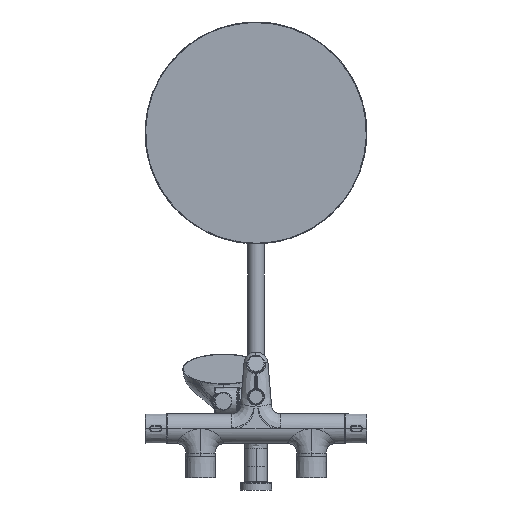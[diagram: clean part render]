
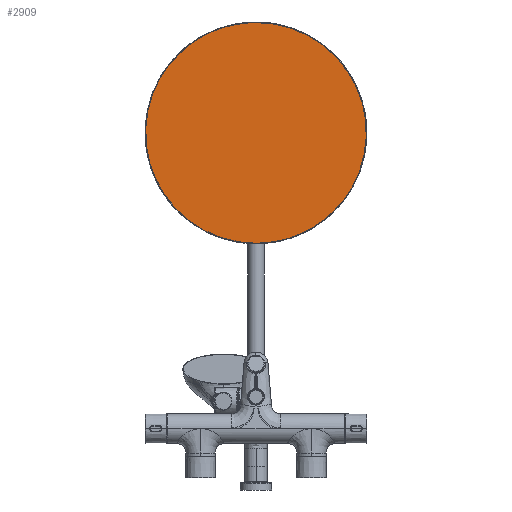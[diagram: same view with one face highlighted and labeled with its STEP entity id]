
A CAD part, front view. The second image highlights one B-rep face of the part: STEP entity #2909.
In plain terms, the highlighted planar face has unit normal (0, -1, 0).
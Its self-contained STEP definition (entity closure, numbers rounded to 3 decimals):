
#1078 = EDGE_CURVE ( 'NONE', #3123, #14101, #47282, .T. ) ;
#1089 = ORIENTED_EDGE ( 'NONE', *, *, #2007, .F. ) ;
#1637 = ORIENTED_EDGE ( 'NONE', *, *, #1078, .F. ) ;
#2007 = EDGE_CURVE ( 'NONE', #14101, #14953, #34167, .T. ) ;
#2518 = CARTESIAN_POINT ( 'NONE',  ( -0.655, 1132.897, 207.803 ) ) ;
#2909 = ADVANCED_FACE ( 'NONE', ( #40716 ), #26855, .T. ) ;
#3001 = CARTESIAN_POINT ( 'NONE',  ( 0., 1132.897, 357. ) ) ;
#3123 = VERTEX_POINT ( 'NONE', #31043 ) ;
#4353 = EDGE_LOOP ( 'NONE', ( #1637, #45935, #35062, #1089 ) ) ;
#6276 = CARTESIAN_POINT ( 'NONE',  ( 0., 1132.897, 506.199 ) ) ;
#6445 = CARTESIAN_POINT ( 'NONE',  ( 0.437, 1132.897, 506.198 ) ) ;
#7923 = CARTESIAN_POINT ( 'NONE',  ( -297.745, 1132.897, 209.107 ) ) ;
#8818 = CARTESIAN_POINT ( 'NONE',  ( 0.655, 1132.897, 506.197 ) ) ;
#10886 = VERTEX_POINT ( 'NONE', #13647 ) ;
#13647 = CARTESIAN_POINT ( 'NONE',  ( -0.655, 1132.897, 207.803 ) ) ;
#14101 = VERTEX_POINT ( 'NONE', #36741 ) ;
#14467 = CARTESIAN_POINT ( 'NONE',  ( 0.655, 1132.897, 506.197 ) ) ;
#14953 = VERTEX_POINT ( 'NONE', #33057 ) ;
#19955 = CARTESIAN_POINT ( 'NONE',  ( 0., 1132.897, 506.199 ) ) ;
#20306 = CARTESIAN_POINT ( 'NONE',  ( 297.093, 1132.897, 207.801 ) ) ;
#23093 = EDGE_CURVE ( 'NONE', #14953, #10886, #31786, .T. ) ;
#23936 = CARTESIAN_POINT ( 'NONE',  ( -297.093, 1132.897, 506.199 ) ) ;
#23980 =( BOUNDED_CURVE ( )  B_SPLINE_CURVE ( 3, ( #28806, #7923, #23936, #19955 ),
 .UNSPECIFIED., .F., .F. ) 
 B_SPLINE_CURVE_WITH_KNOTS ( ( 4, 4 ),
 ( 0.001, 1. ),
 .UNSPECIFIED. ) 
 CURVE ( )  GEOMETRIC_REPRESENTATION_ITEM ( )  RATIONAL_B_SPLINE_CURVE ( ( 1., 0.335, 0.335, 1. ) ) 
 REPRESENTATION_ITEM ( '' )  );
#26855 = PLANE ( 'NONE',  #35266 ) ;
#27205 = DIRECTION ( 'NONE',  ( 0., -1., 0. ) ) ;
#28806 = CARTESIAN_POINT ( 'NONE',  ( -0.655, 1132.897, 207.803 ) ) ;
#30869 = DIRECTION ( 'NONE',  ( 0., 0., -1. ) ) ;
#31043 = CARTESIAN_POINT ( 'NONE',  ( 0., 1132.897, 506.199 ) ) ;
#31786 =( BOUNDED_CURVE ( )  B_SPLINE_CURVE ( 3, ( #41724, #34048, #46083, #2518 ),
 .UNSPECIFIED., .F., .T. ) 
 B_SPLINE_CURVE_WITH_KNOTS ( ( 4, 4 ),
 ( 0., 0.001 ),
 .UNSPECIFIED. ) 
 CURVE ( )  GEOMETRIC_REPRESENTATION_ITEM ( )  RATIONAL_B_SPLINE_CURVE ( ( 1., 1., 1., 1. ) ) 
 REPRESENTATION_ITEM ( '' )  );
#32845 = CARTESIAN_POINT ( 'NONE',  ( 0., 1132.897, 207.801 ) ) ;
#33057 = CARTESIAN_POINT ( 'NONE',  ( 0., 1132.897, 207.801 ) ) ;
#34048 = CARTESIAN_POINT ( 'NONE',  ( -0.218, 1132.897, 207.801 ) ) ;
#34167 =( BOUNDED_CURVE ( )  B_SPLINE_CURVE ( 3, ( #8818, #40322, #20306, #32845 ),
 .UNSPECIFIED., .F., .F. ) 
 B_SPLINE_CURVE_WITH_KNOTS ( ( 4, 4 ),
 ( 0.001, 1. ),
 .UNSPECIFIED. ) 
 CURVE ( )  GEOMETRIC_REPRESENTATION_ITEM ( )  RATIONAL_B_SPLINE_CURVE ( ( 1., 0.335, 0.335, 1. ) ) 
 REPRESENTATION_ITEM ( '' )  );
#35062 = ORIENTED_EDGE ( 'NONE', *, *, #23093, .F. ) ;
#35266 = AXIS2_PLACEMENT_3D ( 'NONE', #3001, #27205, #30869 ) ;
#36741 = CARTESIAN_POINT ( 'NONE',  ( 0.655, 1132.897, 506.197 ) ) ;
#38144 = CARTESIAN_POINT ( 'NONE',  ( 0.218, 1132.897, 506.199 ) ) ;
#40322 = CARTESIAN_POINT ( 'NONE',  ( 297.745, 1132.897, 504.893 ) ) ;
#40497 = EDGE_CURVE ( 'NONE', #10886, #3123, #23980, .T. ) ;
#40716 = FACE_OUTER_BOUND ( 'NONE', #4353, .T. ) ;
#41724 = CARTESIAN_POINT ( 'NONE',  ( 0., 1132.897, 207.801 ) ) ;
#45935 = ORIENTED_EDGE ( 'NONE', *, *, #40497, .F. ) ;
#46083 = CARTESIAN_POINT ( 'NONE',  ( -0.437, 1132.897, 207.802 ) ) ;
#47282 =( BOUNDED_CURVE ( )  B_SPLINE_CURVE ( 3, ( #6276, #38144, #6445, #14467 ),
 .UNSPECIFIED., .F., .F. ) 
 B_SPLINE_CURVE_WITH_KNOTS ( ( 4, 4 ),
 ( 0., 0.001 ),
 .UNSPECIFIED. ) 
 CURVE ( )  GEOMETRIC_REPRESENTATION_ITEM ( )  RATIONAL_B_SPLINE_CURVE ( ( 1., 1., 1., 1. ) ) 
 REPRESENTATION_ITEM ( '' )  );
